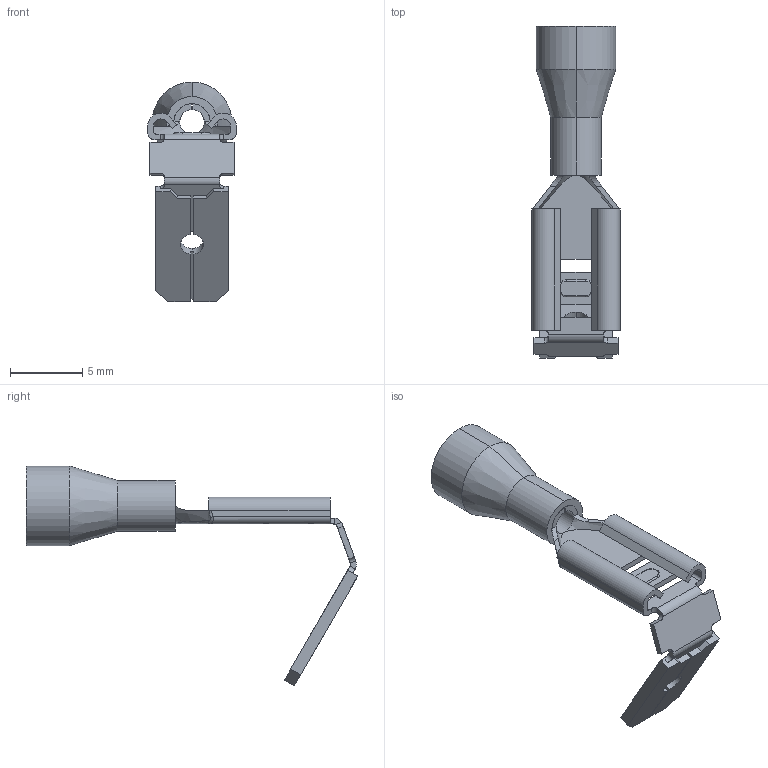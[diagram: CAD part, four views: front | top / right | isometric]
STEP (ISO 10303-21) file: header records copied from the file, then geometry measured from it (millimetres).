
FILE_DESCRIPTION (( 'STEP AP214' ), '1' );
FILE_NAME ('278092 OptiKit S-PO-PVC-1,5-7,5-0,4.STEP', '2020-02-19T10:55:26', ( '' ), ( '' ), 'SwSTEP 2.0', 'SolidWorks 2018', '' );
FILE_SCHEMA (( 'AUTOMOTIVE_DESIGN' ));
Length unit declared in the file: millimetre
Products named in the file (3): 朽琥屐 酗阮 1,5-7,5-0,4; Îïëåòêà 111; 278092 OptiKit S-PO-PVC-1,5-7,5-0,4
Assembly tree (2 placements, depth 2):
  278092 OptiKit S-PO-PVC-1,5-7,5-0,4
    Îïëåòêà 111
    朽琥屐 酗阮 1,5-7,5-0,4
Bounding box: 6.11 x 22.91 x 15.19 mm (x, y, z)
Volume: 160.1 mm3; surface area: 720.4 mm2
Topology: 2 solids, 2 shells, 136 faces, 381 edges, 244 vertices
Faces by surface type: plane 75, cylinder 40, bspline 10, cone 8, torus 3
Entity records: 4768 total; most frequent: CARTESIAN_POINT 1208, ORIENTED_EDGE 758, DIRECTION 698, EDGE_CURVE 379, AXIS2_PLACEMENT_3D 244, VERTEX_POINT 244, VECTOR 210, LINE 210
